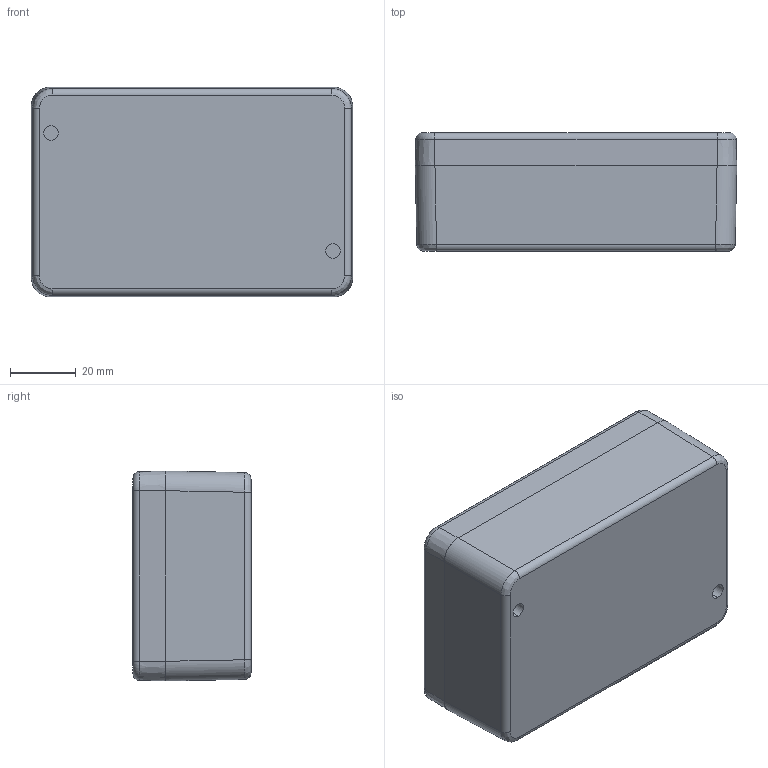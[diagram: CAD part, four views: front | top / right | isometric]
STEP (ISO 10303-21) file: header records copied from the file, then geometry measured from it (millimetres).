
FILE_DESCRIPTION((''),'2;1');
FILE_NAME('1080950000_ASM','2024-02-05T13:15:25',('Stephanie.Hoppe'),(''),'CREO PARAMETRIC BY PTC INC, 2022124','CREO PARAMETRIC BY PTC INC, 2022124','');
FILE_SCHEMA(('AUTOMOTIVE_DESIGN { 1 0 10303 214 1 1 1 1 }'));
Length unit declared in the file: millimetre
Products named in the file (11): 9301003000_AF0; 9261104000; 9601112000_ASM; 9601587000_ASM; 9302003000_AF0; 9261114000; 9611132000_ASM; DICHTUNG_CA080; 9611345000_ASM; 9261011000; 1080950000_ASM
Assembly tree (14 placements, depth 4):
  1080950000_ASM
    9601587000_ASM
      9601112000_ASM
        9301003000_AF0
        9261104000  x2
    9611345000_ASM
      9611132000_ASM
        9302003000_AF0
        9261114000
      DICHTUNG_CA080
    9261011000  x4
Bounding box: 98 x 36 x 64 mm (x, y, z)
Volume: 86297.6 mm3; surface area: 55119.9 mm2
Topology: 21 solids, 35 shells, 1075 faces, 2851 edges, 1838 vertices
Faces by surface type: plane 433, cylinder 272, cone 227, torus 107, bspline 35, sphere 1
Entity records: 46524 total; most frequent: CARTESIAN_POINT 8532, DIRECTION 4706, ORIENTED_EDGE 3900, PRESENTATION_STYLE_ASSIGNMENT 2821, STYLED_ITEM 2821, CURVE_STYLE 2312, EDGE_CURVE 1970, AXIS2_PLACEMENT_3D 1789
